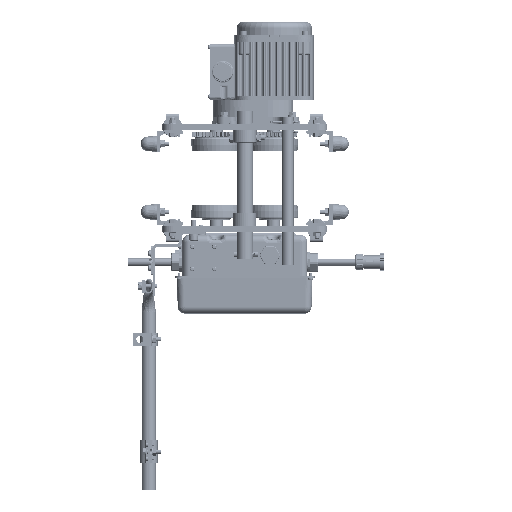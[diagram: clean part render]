
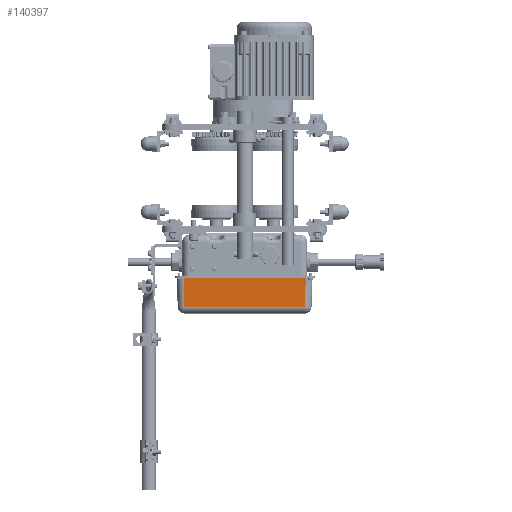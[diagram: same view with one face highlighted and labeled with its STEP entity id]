
A CAD part, front view. The second image highlights one B-rep face of the part: STEP entity #140397.
In plain terms, the highlighted planar face has unit normal (0, -0.999, -0.035) as drawn and (-0.035, -0.999, 0) by its records, which use the part's own axes.
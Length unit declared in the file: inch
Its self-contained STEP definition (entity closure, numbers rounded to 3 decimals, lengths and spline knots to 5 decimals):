
#130 = DIRECTION ( 'NONE',  ( 0.999, -0.035, -0.035 ) ) ;
#1725 = CARTESIAN_POINT ( 'NONE',  ( -0.03937, 0.3937, 9.83076 ) ) ;
#10623 = DIRECTION ( 'NONE',  ( 0.999, -0.035, 0. ) ) ;
#10973 = EDGE_LOOP ( 'NONE', ( #35563, #159483, #106512, #69392 ) ) ;
#11453 = EDGE_CURVE ( 'NONE', #55064, #159057, #80122, .T. ) ;
#11491 = PLANE ( 'NONE',  #86645 ) ;
#16144 = VERTEX_POINT ( 'NONE', #57625 ) ;
#26485 = LINE ( 'NONE', #103589, #110261 ) ;
#28665 = EDGE_CURVE ( 'NONE', #55064, #16144, #51191, .T. ) ;
#35563 = ORIENTED_EDGE ( 'NONE', *, *, #28665, .F. ) ;
#44109 = CARTESIAN_POINT ( 'NONE',  ( -2.22259, 0.46994, 9.75453 ) ) ;
#48389 = VECTOR ( 'NONE', #106124, 39.37008 ) ;
#51191 = LINE ( 'NONE', #131617, #91930 ) ;
#55064 = VERTEX_POINT ( 'NONE', #1725 ) ;
#57625 = CARTESIAN_POINT ( 'NONE',  ( -0.03937, 0.3937, 0.65822 ) ) ;
#63423 = DIRECTION ( 'NONE',  ( -0.035, -0.999, 0. ) ) ;
#66279 = CARTESIAN_POINT ( 'NONE',  ( -2.69872, 0.48657, 9.7379 ) ) ;
#66680 = VECTOR ( 'NONE', #130, 39.37008 ) ;
#69392 = ORIENTED_EDGE ( 'NONE', *, *, #150655, .T. ) ;
#73593 = CARTESIAN_POINT ( 'NONE',  ( -2.22259, 0.46994, 0.73446 ) ) ;
#80122 = LINE ( 'NONE', #66279, #48389 ) ;
#86645 = AXIS2_PLACEMENT_3D ( 'NONE', #116196, #63423, #10623 ) ;
#91930 = VECTOR ( 'NONE', #157641, 39.37008 ) ;
#103589 = CARTESIAN_POINT ( 'NONE',  ( -2.22259, 0.46994, 10.47244 ) ) ;
#106124 = DIRECTION ( 'NONE',  ( -0.999, 0.035, -0.035 ) ) ;
#106512 = ORIENTED_EDGE ( 'NONE', *, *, #167590, .T. ) ;
#110261 = VECTOR ( 'NONE', #154683, 39.37008 ) ;
#116196 = CARTESIAN_POINT ( 'NONE',  ( -1.0803, 0.43005, 10.47244 ) ) ;
#131617 = CARTESIAN_POINT ( 'NONE',  ( -0.03937, 0.3937, 10.47244 ) ) ;
#140397 = ADVANCED_FACE ( 'NONE', ( #157763 ), #11491, .T. ) ;
#142947 = LINE ( 'NONE', #144670, #66680 ) ;
#144670 = CARTESIAN_POINT ( 'NONE',  ( -1.42092, 0.44195, 0.70647 ) ) ;
#150655 = EDGE_CURVE ( 'NONE', #163985, #16144, #142947, .T. ) ;
#154683 = DIRECTION ( 'NONE',  ( 0., 0., -1. ) ) ;
#157641 = DIRECTION ( 'NONE',  ( 0., 0., -1. ) ) ;
#157763 = FACE_OUTER_BOUND ( 'NONE', #10973, .T. ) ;
#159057 = VERTEX_POINT ( 'NONE', #44109 ) ;
#159483 = ORIENTED_EDGE ( 'NONE', *, *, #11453, .T. ) ;
#163985 = VERTEX_POINT ( 'NONE', #73593 ) ;
#167590 = EDGE_CURVE ( 'NONE', #159057, #163985, #26485, .T. ) ;
